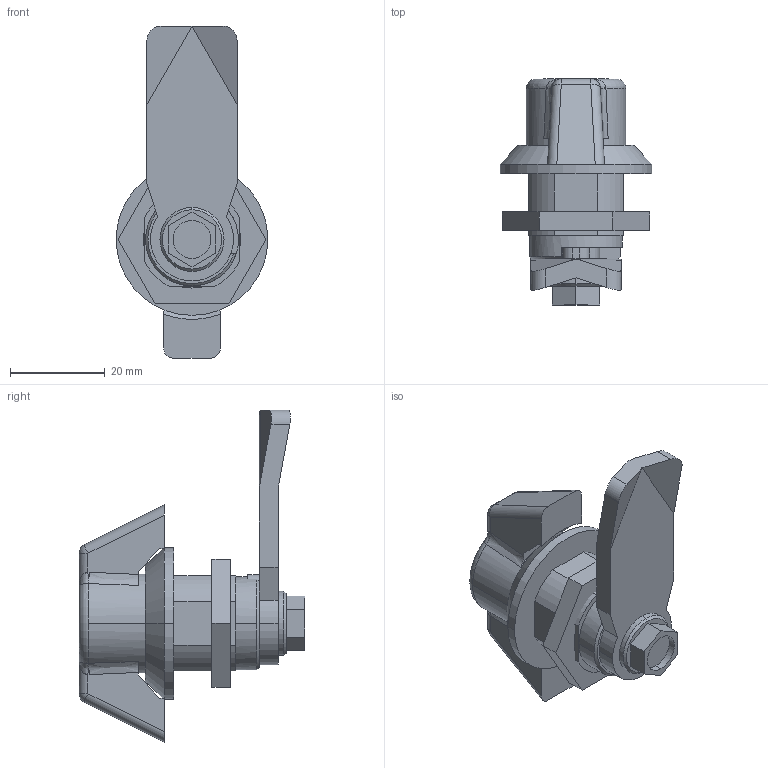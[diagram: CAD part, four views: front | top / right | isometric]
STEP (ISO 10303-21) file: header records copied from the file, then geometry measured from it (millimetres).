
FILE_DESCRIPTION (( 'STEP AP214' ), '1' );
FILE_NAME ('115-SKN-18-A4.step', '2023-07-12T12:42:05', ( '' ), ( '' ), 'SwSTEP 2.0', 'SolidWorks 2022', '' );
FILE_SCHEMA (( 'AUTOMOTIVE_DESIGN' ));
Length unit declared in the file: millimetre
Products named in the file (5): WB115_Betätigungswelle_Hebel^WB115_BE_SKN; WB115_Gehäuse^WB115_BE_32; WB115_Gegenmutter^WB115_BE; 115-SKN-18-A4; WB115_Zunge^WB115_BE_18
Assembly tree (4 placements, depth 2):
  115-SKN-18-A4
    WB115_Gehäuse^WB115_BE_32
    WB115_Betätigungswelle_Hebel^WB115_BE_SKN
    WB115_Zunge^WB115_BE_18
    WB115_Gegenmutter^WB115_BE
Bounding box: 32 x 47.65 x 70 mm (x, y, z)
Volume: 23526.4 mm3; surface area: 12402.6 mm2
Topology: 4 solids, 4 shells, 151 faces, 369 edges, 232 vertices
Faces by surface type: plane 72, cylinder 53, bspline 12, cone 7, sphere 5, torus 2
Entity records: 5506 total; most frequent: CARTESIAN_POINT 1305, DIRECTION 731, ORIENTED_EDGE 728, EDGE_CURVE 364, AXIS2_PLACEMENT_3D 270, VERTEX_POINT 232, LINE 191, VECTOR 191
